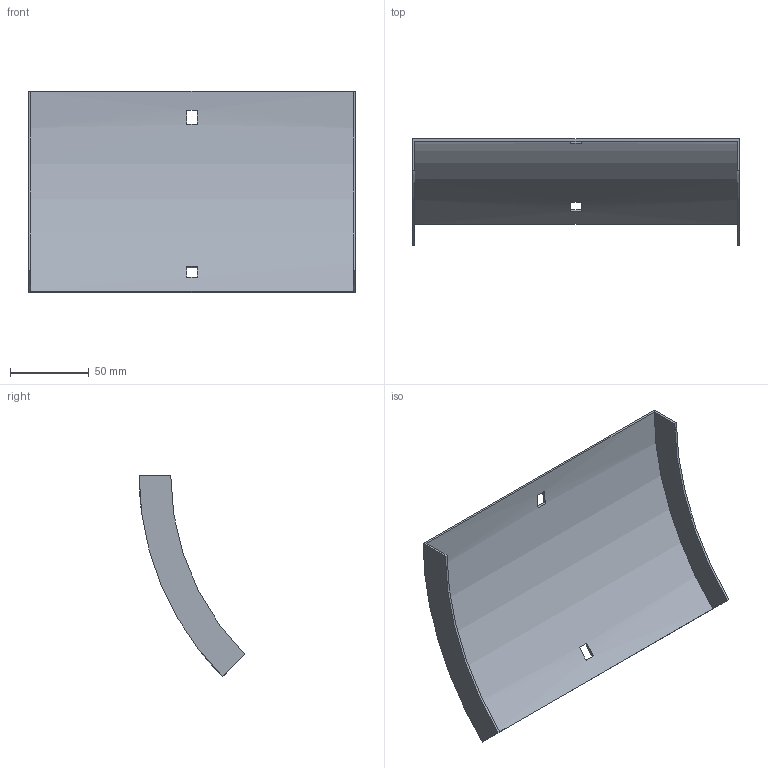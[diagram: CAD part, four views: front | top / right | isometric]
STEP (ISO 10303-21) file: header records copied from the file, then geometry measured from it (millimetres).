
FILE_DESCRIPTION (( 'STEP AP214' ), '1' );
FILE_NAME ('34N1C200.step', '2025-02-21T09:15:57', ( '' ), ( '' ), 'SwSTEP 2.0', 'SolidWorks 2023', '' );
FILE_SCHEMA (( 'AUTOMOTIVE_DESIGN' ));
Length unit declared in the file: millimetre
Products named in the file (1): 34N1C200
Bounding box: 207 x 67.01 x 127.63 mm (x, y, z)
Volume: 51058 mm3; surface area: 69282.7 mm2
Topology: 1 solids, 1 shells, 18 faces, 48 edges, 32 vertices
Faces by surface type: plane 14, cylinder 4
Entity records: 599 total; most frequent: DIRECTION 102, CARTESIAN_POINT 99, ORIENTED_EDGE 96, EDGE_CURVE 48, AXIS2_PLACEMENT_3D 35, LINE 32, VERTEX_POINT 32, VECTOR 32
